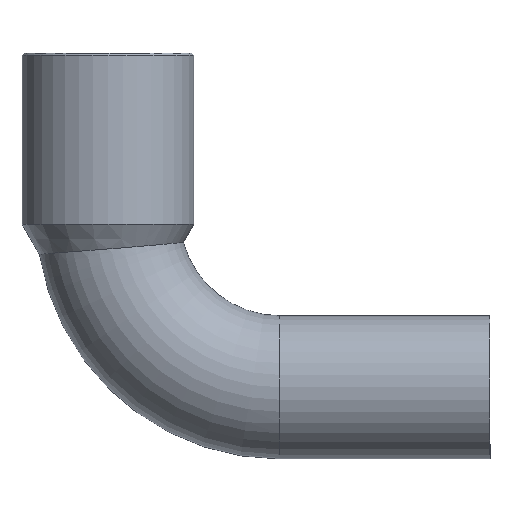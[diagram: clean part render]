
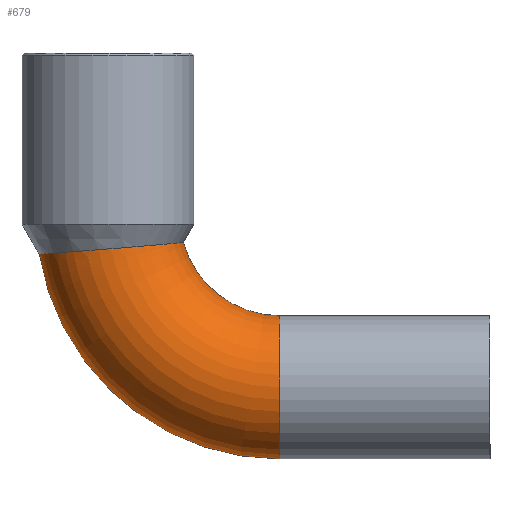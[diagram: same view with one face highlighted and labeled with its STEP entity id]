
A CAD part, front view. The second image highlights one B-rep face of the part: STEP entity #679.
In plain terms, the highlighted toroidal (fillet/blend) face has major radius 7.2 mm and minor radius 3 mm.
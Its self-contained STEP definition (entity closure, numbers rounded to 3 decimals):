
#49=CARTESIAN_POINT('',(11.965,0.,-1.626));
#50=VERTEX_POINT('',#49);
#51=CARTESIAN_POINT('',(22.035,0.,-10.2));
#52=VERTEX_POINT('',#51);
#53=CARTESIAN_POINT('',(22.035,0.,0.0));
#54=DIRECTION('',(0.0,-1.0,0.0));
#55=DIRECTION('',(0.0,0.0,-1.0));
#56=AXIS2_PLACEMENT_3D('',#53,#54,#55);
#57=CIRCLE('',#56,10.2);
#58=EDGE_CURVE('',#50,#52,#57,.T.);
#60=CARTESIAN_POINT('',(17.99,0.,-1.131));
#61=VERTEX_POINT('',#60);
#85=CARTESIAN_POINT('',(22.035,0.,-4.2));
#86=VERTEX_POINT('',#85);
#87=CARTESIAN_POINT('',(22.035,0.,0.0));
#88=DIRECTION('',(0.0,1.0,0.0));
#89=DIRECTION('',(0.0,0.0,-1.0));
#90=AXIS2_PLACEMENT_3D('',#87,#88,#89);
#91=CIRCLE('',#90,4.2);
#92=EDGE_CURVE('',#86,#61,#91,.T.);
#210=CARTESIAN_POINT('',(17.99,0.,-1.131));
#211=CARTESIAN_POINT('',(17.99,-0.024,-1.131));
#212=CARTESIAN_POINT('',(17.99,-0.048,-1.131));
#213=CARTESIAN_POINT('',(17.98,-0.46,-1.132));
#214=CARTESIAN_POINT('',(17.895,-0.842,-1.141));
#215=CARTESIAN_POINT('',(17.58,-1.558,-1.172));
#216=CARTESIAN_POINT('',(17.353,-1.883,-1.193));
#217=CARTESIAN_POINT('',(16.784,-2.43,-1.245));
#218=CARTESIAN_POINT('',(16.448,-2.645,-1.274));
#219=CARTESIAN_POINT('',(15.712,-2.934,-1.336));
#220=CARTESIAN_POINT('',(15.32,-3.006,-1.367));
#221=CARTESIAN_POINT('',(14.533,-2.994,-1.429));
#222=CARTESIAN_POINT('',(14.145,-2.911,-1.459));
#223=CARTESIAN_POINT('',(13.425,-2.603,-1.514));
#224=CARTESIAN_POINT('',(13.1,-2.381,-1.539));
#225=CARTESIAN_POINT('',(12.553,-1.824,-1.58));
#226=CARTESIAN_POINT('',(12.336,-1.496,-1.597));
#227=CARTESIAN_POINT('',(12.041,-0.775,-1.62));
#228=CARTESIAN_POINT('',(11.965,-0.389,-1.626));
#229=CARTESIAN_POINT('',(11.965,0.,-1.626));
#230=B_SPLINE_CURVE_WITH_KNOTS('',3,(#210,#211,#212,#213,#214,#215,#216,#217,#218,#219,#220,#221,#222,#223,#224,#225,#226,#227,#228,#229),.UNSPECIFIED.,.F.,.U.,(4,2,2,2,2,2,2,2,2,4),(-0.949,-0.942,-0.825,-0.707,-0.588,-0.469,-0.351,-0.234,-0.117,0.0),.UNSPECIFIED.);
#231=EDGE_CURVE('',#61,#50,#230,.T.);
#535=CARTESIAN_POINT('',(22.035,0.,-7.2));
#536=DIRECTION('',(-1.0,0.0,0.0));
#537=DIRECTION('',(0.0,0.0,-1.0));
#538=AXIS2_PLACEMENT_3D('',#535,#536,#537);
#539=CIRCLE('',#538,3.);
#540=EDGE_CURVE('',#52,#86,#539,.T.);
#668=CARTESIAN_POINT('',(22.035,0.,0.0));
#669=DIRECTION('',(0.0,-1.0,0.0));
#670=DIRECTION('',(0.0,0.0,-1.0));
#671=AXIS2_PLACEMENT_3D('',#668,#669,#670);
#672=TOROIDAL_SURFACE('',#671,7.2,3.);
#673=ORIENTED_EDGE('',*,*,#58,.T.);
#674=ORIENTED_EDGE('',*,*,#540,.T.);
#675=ORIENTED_EDGE('',*,*,#92,.T.);
#676=ORIENTED_EDGE('',*,*,#231,.T.);
#677=EDGE_LOOP('',(#673,#674,#675,#676));
#678=FACE_OUTER_BOUND('',#677,.T.);
#679=ADVANCED_FACE('',(#678),#672,.T.);
